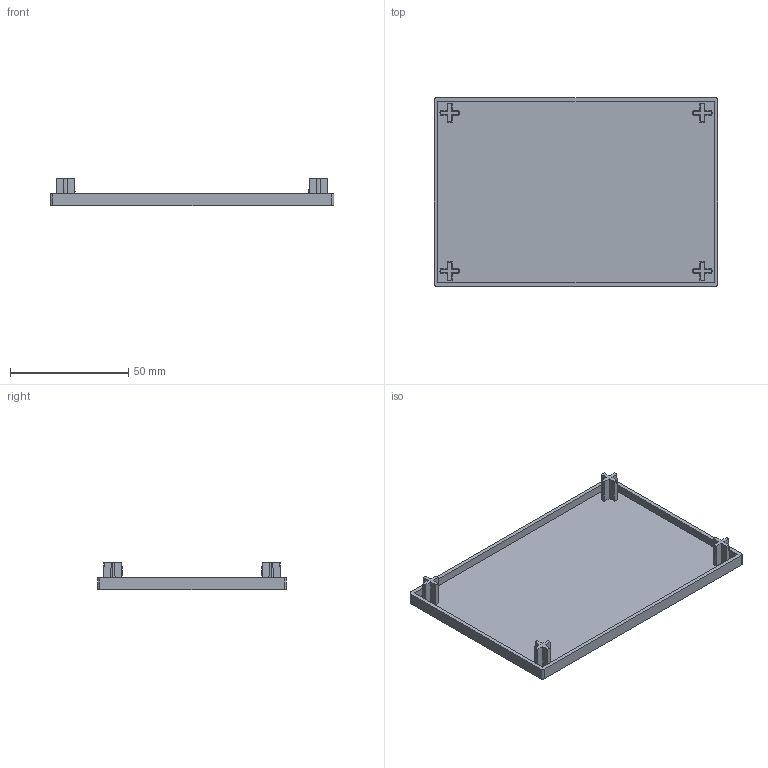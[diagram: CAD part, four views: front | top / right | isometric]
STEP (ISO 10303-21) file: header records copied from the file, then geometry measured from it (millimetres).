
FILE_DESCRIPTION (( 'STEP AP203' ), '1' );
FILE_NAME ('EC80120-8.STEP', '2024-02-19T05:56:22', ( '' ), ( '' ), 'SwSTEP 2.0', 'SolidWorks 2022', '' );
FILE_SCHEMA (( 'CONFIG_CONTROL_DESIGN' ));
Length unit declared in the file: millimetre
Products named in the file (1): EC80120-8
Bounding box: 120 x 80 x 11.5 mm (x, y, z)
Volume: 17434.3 mm3; surface area: 23743.8 mm2
Topology: 1 solids, 1 shells, 71 faces, 192 edges, 128 vertices
Faces by surface type: plane 47, cone 20, cylinder 4
Entity records: 2439 total; most frequent: CARTESIAN_POINT 584, ORIENTED_EDGE 384, DIRECTION 352, EDGE_CURVE 192, VERTEX_POINT 128, AXIS2_PLACEMENT_3D 120, LINE 112, VECTOR 112
